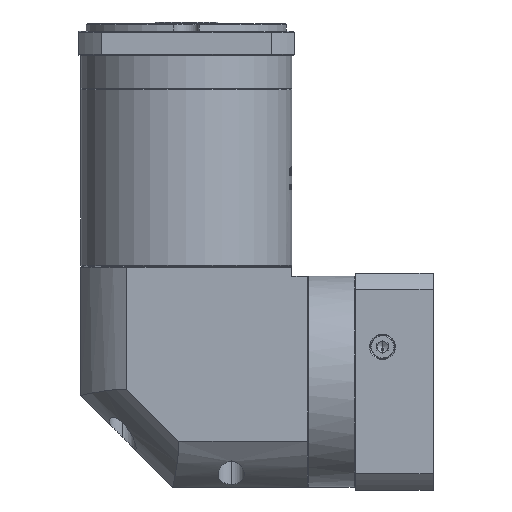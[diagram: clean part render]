
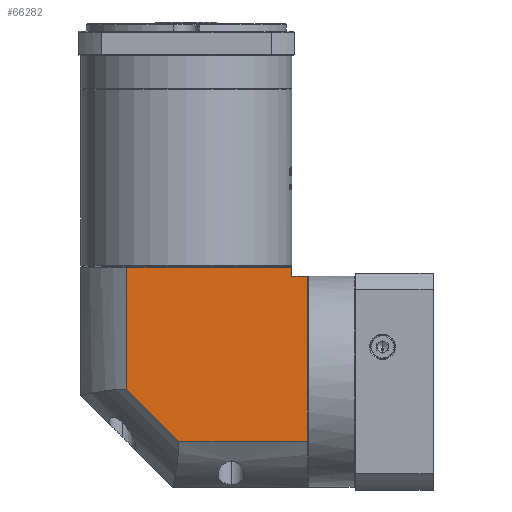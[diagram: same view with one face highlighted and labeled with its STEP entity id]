
A CAD part, left-side view. The second image highlights one B-rep face of the part: STEP entity #66282.
In plain terms, the highlighted planar face has unit normal (-1, 0, 0).
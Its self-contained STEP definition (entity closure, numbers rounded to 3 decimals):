
#2603 = CARTESIAN_POINT ( 'NONE',  ( -248.927, -114.793, 104.557 ) ) ;
#4246 = AXIS2_PLACEMENT_3D ( 'NONE', #61334, #35936, #110016 ) ;
#5464 = CARTESIAN_POINT ( 'NONE',  ( -248.927, -114.793, 3.158 ) ) ;
#6544 = EDGE_CURVE ( 'NONE', #18798, #126590, #108532, .T. ) ;
#6572 = DIRECTION ( 'NONE',  ( 0., 0., 1. ) ) ;
#8150 = CARTESIAN_POINT ( 'NONE',  ( -248.927, -106.393, 93.057 ) ) ;
#8208 = FACE_OUTER_BOUND ( 'NONE', #147086, .T. ) ;
#8728 = VECTOR ( 'NONE', #91020, 1000. ) ;
#16581 = ORIENTED_EDGE ( 'NONE', *, *, #120756, .F. ) ;
#18798 = VERTEX_POINT ( 'NONE', #54781 ) ;
#21526 = VERTEX_POINT ( 'NONE', #139175 ) ;
#31030 = VECTOR ( 'NONE', #128314, 1000. ) ;
#35936 = DIRECTION ( 'NONE',  ( 1., 0., 0. ) ) ;
#36532 = ORIENTED_EDGE ( 'NONE', *, *, #127023, .F. ) ;
#38460 = LINE ( 'NONE', #136974, #52194 ) ;
#40758 = ORIENTED_EDGE ( 'NONE', *, *, #109784, .T. ) ;
#42479 = LINE ( 'NONE', #76629, #8728 ) ;
#45918 = ORIENTED_EDGE ( 'NONE', *, *, #6544, .F. ) ;
#50458 = CARTESIAN_POINT ( 'NONE',  ( -248.927, -106.393, -21.943 ) ) ;
#52194 = VECTOR ( 'NONE', #112642, 1000. ) ;
#54781 = CARTESIAN_POINT ( 'NONE',  ( -248.927, -16.493, 98.057 ) ) ;
#61334 = CARTESIAN_POINT ( 'NONE',  ( -248.927, 8.607, 104.557 ) ) ;
#64651 = LINE ( 'NONE', #50458, #31030 ) ;
#65534 = LINE ( 'NONE', #121462, #93172 ) ;
#66282 = ADVANCED_FACE ( 'NONE', ( #8208 ), #85634, .F. ) ;
#76629 = CARTESIAN_POINT ( 'NONE',  ( -248.927, 8.607, 3.158 ) ) ;
#77561 = CARTESIAN_POINT ( 'NONE',  ( -248.927, 8.607, 98.057 ) ) ;
#85634 = PLANE ( 'NONE',  #4246 ) ;
#89047 = CARTESIAN_POINT ( 'NONE',  ( -248.927, -106.393, 98.057 ) ) ;
#90024 = DIRECTION ( 'NONE',  ( 0., 0., -1. ) ) ;
#91020 = DIRECTION ( 'NONE',  ( 0., 1., 0. ) ) ;
#91422 = DIRECTION ( 'NONE',  ( 0., -1., 0. ) ) ;
#93172 = VECTOR ( 'NONE', #6572, 1000. ) ;
#103543 = ORIENTED_EDGE ( 'NONE', *, *, #125363, .F. ) ;
#105315 = VERTEX_POINT ( 'NONE', #162552 ) ;
#108532 = LINE ( 'NONE', #77561, #163993 ) ;
#109784 = EDGE_CURVE ( 'NONE', #21526, #117104, #151576, .T. ) ;
#110016 = DIRECTION ( 'NONE',  ( 0., 1., 0. ) ) ;
#112642 = DIRECTION ( 'NONE',  ( 0., 0.707, 0.707 ) ) ;
#113861 = VECTOR ( 'NONE', #133681, 1000. ) ;
#117104 = VERTEX_POINT ( 'NONE', #117675 ) ;
#117675 = CARTESIAN_POINT ( 'NONE',  ( -248.927, -106.393, 93.057 ) ) ;
#119513 = ORIENTED_EDGE ( 'NONE', *, *, #143537, .F. ) ;
#120756 = EDGE_CURVE ( 'NONE', #130061, #18798, #65534, .T. ) ;
#121462 = CARTESIAN_POINT ( 'NONE',  ( -248.927, -16.493, 104.557 ) ) ;
#124042 = LINE ( 'NONE', #2603, #137927 ) ;
#125363 = EDGE_CURVE ( 'NONE', #21526, #139295, #124042, .T. ) ;
#126590 = VERTEX_POINT ( 'NONE', #89047 ) ;
#127023 = EDGE_CURVE ( 'NONE', #105315, #130061, #38460, .T. ) ;
#128314 = DIRECTION ( 'NONE',  ( 0., 0., 1. ) ) ;
#130061 = VERTEX_POINT ( 'NONE', #134467 ) ;
#133681 = DIRECTION ( 'NONE',  ( 0., 1., 0. ) ) ;
#134467 = CARTESIAN_POINT ( 'NONE',  ( -248.927, -16.493, 31.496 ) ) ;
#136974 = CARTESIAN_POINT ( 'NONE',  ( -248.927, -44.831, 3.158 ) ) ;
#137927 = VECTOR ( 'NONE', #90024, 1000. ) ;
#138575 = EDGE_CURVE ( 'NONE', #117104, #126590, #64651, .T. ) ;
#139175 = CARTESIAN_POINT ( 'NONE',  ( -248.927, -114.793, 93.057 ) ) ;
#139295 = VERTEX_POINT ( 'NONE', #5464 ) ;
#143537 = EDGE_CURVE ( 'NONE', #139295, #105315, #42479, .T. ) ;
#147086 = EDGE_LOOP ( 'NONE', ( #16581, #36532, #119513, #103543, #40758, #153001, #45918 ) ) ;
#151576 = LINE ( 'NONE', #8150, #113861 ) ;
#153001 = ORIENTED_EDGE ( 'NONE', *, *, #138575, .T. ) ;
#162552 = CARTESIAN_POINT ( 'NONE',  ( -248.927, -44.831, 3.158 ) ) ;
#163993 = VECTOR ( 'NONE', #91422, 1000. ) ;
